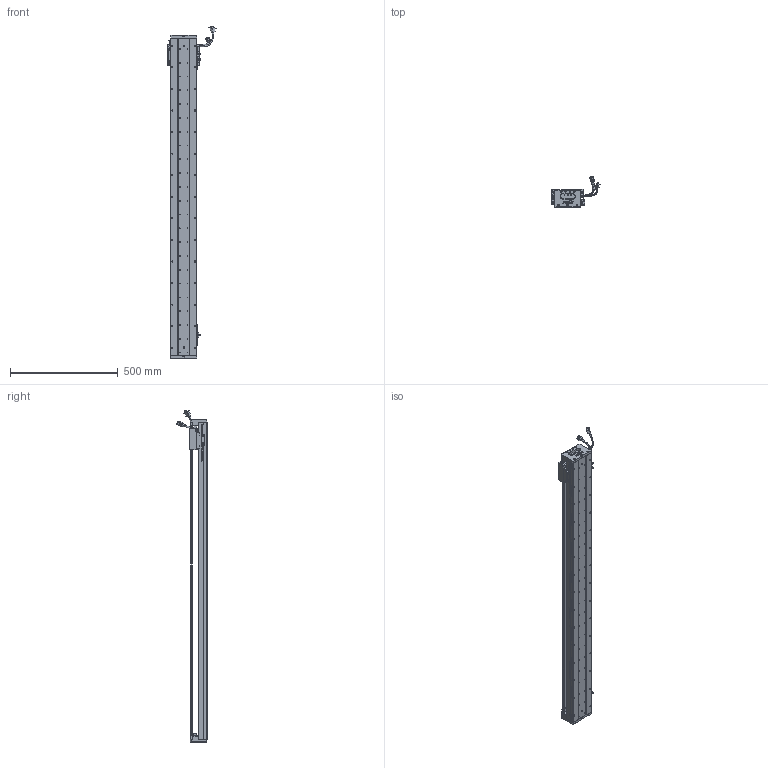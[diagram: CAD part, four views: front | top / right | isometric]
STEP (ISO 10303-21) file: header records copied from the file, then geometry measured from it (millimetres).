
FILE_DESCRIPTION (( 'STEP AP203' ), '1' );
FILE_NAME ('Z1-RY120D-1-L500-B-K.SLDASM_1300.step', '2021-05-17T03:47:03', ( '盈信电脑' ), ( '东莞市道滘镇水果街19号' ), 'SwSTEP 2.0', 'SolidWorks 2016', '' );
FILE_SCHEMA (( 'CONFIG_CONTROL_DESIGN' ));
Length unit declared in the file: millimetre
Products named in the file (37): SHIELDPLATE; Z-RY120D詩湍狟揤裔; Z-120詩湍傷裔啣; 覜茼ん672; HOLDER0; 120-Z-臏賑輸盄裔(21遴); LABEL; COVER; RY100FB-遵嫖萇覜茼え; SCALE-Part-1; Z1-RY120-L500詩湍100mm遵_1300; HARNESS; PSLH080_PSLF2; SEAL; 榋妏寠巭燃_暯_M2_2; SEAL-Part-1; 140雄赽晤鎢ん堤盄; COVER-Part-1; SCREW-M1.6-3; SCREW-M1.7-1; 140蚥薯蝶輸; HARNESS-Part-1; Z-RY120D詩湍奻揤裔; SCREW-M1.6; SCALE-Part-2; Z1-RY120铝滑块（21款）; PBU_SHEET; HARNESS-Part-2; SCREW-M1.6-2; Z1-RY120D-1-L500-B-K.SLDASM_1300; LABEL-Part-1; 080黍杅芛假蚾釱21遴; 672嫖萇羲壽假蚾釱; SCREW-M1.6-1; SCREW-M1.7; SCALE; Z1-RY120-500-倰第菁釱_1300
Assembly tree (43 placements, depth 4):
  Z1-RY120D-1-L500-B-K.SLDASM_1300
    Z1-RY120-500-倰第菁釱_1300
    覜茼ん672  x3
    672嫖萇羲壽假蚾釱  x2
    Z1-RY120铝滑块（21款）
    PSLH080_PSLF2
      SCALE
        SCALE-Part-1
        SCALE-Part-2
      HARNESS
        HARNESS-Part-1
        HARNESS-Part-2
      LABEL
        LABEL-Part-1
      COVER
        COVER-Part-1
      SEAL
        SEAL-Part-1
      榋妏寠巭燃_暯_M2_2
      SHIELDPLATE
      SCREW-M1.7
      SCREW-M1.7-1
      PBU_SHEET
      SCREW-M1.6
      SCREW-M1.6-1
      SCREW-M1.6-2
      SCREW-M1.6-3
      HOLDER0
    080黍杅芛假蚾釱21遴
    120-Z-臏賑輸盄裔(21遴)
    140雄赽晤鎢ん堤盄
    140蚥薯蝶輸  x2
    RY100FB-遵嫖萇覜茼え
    Z-120詩湍傷裔啣  x2
    Z-RY120D詩湍奻揤裔  x2
    Z-RY120D詩湍狟揤裔  x2
    Z1-RY120-L500詩湍100mm遵_1300
Bounding box: 222.88 x 140.94 x 1538.99 mm (x, y, z)
Volume: 3656106.7 mm3; surface area: 1297570.7 mm2
Topology: 38 solids, 38 shells, 2995 faces, 8268 edges, 5228 vertices
Faces by surface type: cylinder 1430, plane 1151, cone 292, torus 69, bspline 53
Entity records: 93997 total; most frequent: CARTESIAN_POINT 26824, ORIENTED_EDGE 13480, DIRECTION 12798, EDGE_CURVE 6740, AXIS2_PLACEMENT_3D 4678, VERTEX_POINT 4348, VECTOR 3442, LINE 3442
